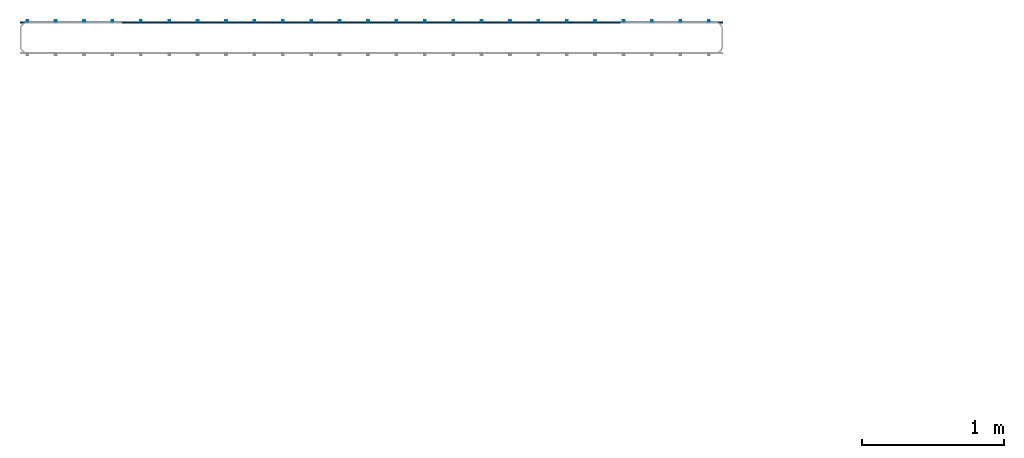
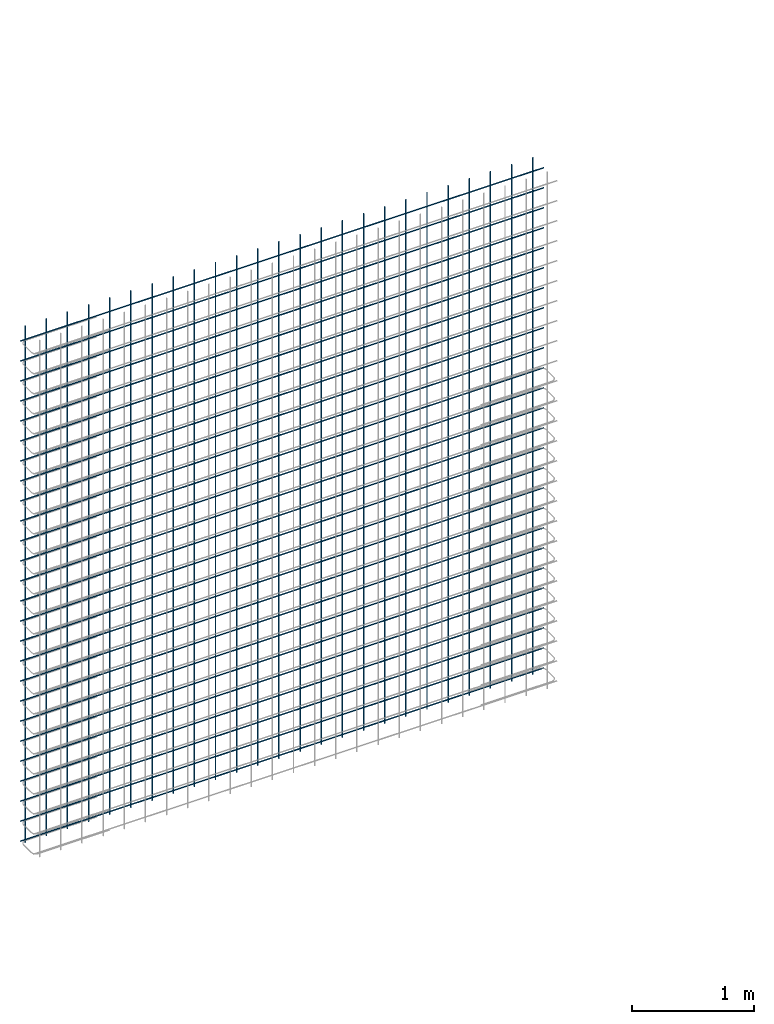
# One storey, part 3 of 4: 2 reinforcing bars.
"""IFC4X3_ADD2 building model written with IfcOpenShell, lengths in millimetres."""

from ifc_helpers import new_model, entity, si_unit, converted_unit, derived_unit, direction, frame, origin, place, context, subcontext, project, spatial, material, type_object, element, save


model = new_model("IFC4X3_ADD2")

# Units and contexts
model_context = context("Model", 3, precision=0.01, world=origin(), true_north=direction((6.123233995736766e-17, 1.0)))
plan_context = context("Plan", 3, precision=0.01, world=origin(), true_north=direction((6.123233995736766e-17, 1.0)))
body_context = subcontext(model_context, "Body", "Model", "MODEL_VIEW")
ifc_project = project(units=[si_unit("LENGTHUNIT", "METRE", prefix="MILLI"), converted_unit("PLANEANGLEUNIT", "DEGREE", entity("IfcPlaneAngleMeasure", 0.017453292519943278), si_unit("PLANEANGLEUNIT", "RADIAN"), dimensions=[0, 0, 0, 0, 0, 0, 0]), si_unit("AREAUNIT", "SQUARE_METRE"), si_unit("VOLUMEUNIT", "CUBIC_METRE"), derived_unit("THERMALTRANSMITTANCEUNIT", [(si_unit("MASSUNIT", "GRAM", prefix="KILO"), 1), (si_unit("THERMODYNAMICTEMPERATUREUNIT", "KELVIN"), -1), (si_unit("TIMEUNIT", "SECOND"), -3)]), derived_unit("USERDEFINED", [(si_unit("MASSUNIT", "GRAM", prefix="KILO"), 1), (si_unit("THERMODYNAMICTEMPERATUREUNIT", "KELVIN"), -1), (si_unit("TIMEUNIT", "SECOND"), -2)]), derived_unit("THERMALRESISTANCEUNIT", [(si_unit("MASSUNIT", "GRAM", prefix="KILO"), -1), (si_unit("TIMEUNIT", "SECOND"), 3), (si_unit("THERMODYNAMICTEMPERATUREUNIT", "KELVIN"), 1)]), si_unit("MASSUNIT", "GRAM", prefix="KILO"), derived_unit("MOMENTOFINERTIAUNIT", [(si_unit("LENGTHUNIT", "METRE"), 4)]), derived_unit("LINEARFORCEUNIT", [(si_unit("MASSUNIT", "GRAM", prefix="KILO"), 1), (si_unit("TIMEUNIT", "SECOND"), -2)]), derived_unit("WARPINGCONSTANTUNIT", [(si_unit("LENGTHUNIT", "METRE"), 6)]), si_unit("PRESSUREUNIT", "PASCAL"), derived_unit("MASSDENSITYUNIT", [(si_unit("MASSUNIT", "GRAM", prefix="KILO"), 1), (si_unit("LENGTHUNIT", "METRE"), -3)]), derived_unit("MODULUSOFELASTICITYUNIT", [(si_unit("MASSUNIT", "GRAM", prefix="KILO"), 1), (si_unit("TIMEUNIT", "SECOND"), -2), (si_unit("LENGTHUNIT", "METRE"), -1)]), derived_unit("THERMALEXPANSIONCOEFFICIENTUNIT", [(si_unit("THERMODYNAMICTEMPERATUREUNIT", "KELVIN"), -1)]), derived_unit("VAPORPERMEABILITYUNIT", [(si_unit("LENGTHUNIT", "METRE"), -1), (si_unit("TIMEUNIT", "SECOND"), 1)]), derived_unit("USERDEFINED", [(si_unit("MASSUNIT", "GRAM", prefix="KILO"), 1), (si_unit("TIMEUNIT", "SECOND"), -3), (si_unit("LENGTHUNIT", "METRE"), 3), (si_unit("ELECTRICCURRENTUNIT", "AMPERE"), -2)]), derived_unit("SPECIFICHEATCAPACITYUNIT", [(si_unit("THERMODYNAMICTEMPERATUREUNIT", "KELVIN"), -1), (si_unit("TIMEUNIT", "SECOND"), -2), (si_unit("LENGTHUNIT", "METRE"), 2)]), derived_unit("THERMALCONDUCTANCEUNIT", [(si_unit("MASSUNIT", "GRAM", prefix="KILO"), 1), (si_unit("THERMODYNAMICTEMPERATUREUNIT", "KELVIN"), -1), (si_unit("TIMEUNIT", "SECOND"), -3), (si_unit("LENGTHUNIT", "METRE"), 1)])], contexts=[model_context, plan_context])

# Site, building, storey
site_placement = place(None, origin())
site = spatial("IfcSite", under=ifc_project, at=site_placement, Name="Default", CompositionType="ELEMENT")
building_placement = place(site_placement, origin())
building = spatial("IfcBuilding", under=site, at=building_placement, Name="Complex structure", CompositionType="ELEMENT")
storey_placement = place(building_placement, frame((0.0, 0.0, -200.0)))
storey = spatial("IfcBuildingStorey", under=building, at=storey_placement, Name="Level -01", CompositionType="ELEMENT", Elevation=-200.0)

# Reinforcing bars
ifc_material = material(Name="Steel Rebar - B500A, B or C", Category="Unassigned")
reinforcing_bar_type = type_object("IfcReinforcingBarType", Name="Rebar Bar:12mm", PredefinedType="NOTDEFINED")
reinforcing_bar_1_placement = place(storey_placement, origin())
element("IfcReinforcingBar", 1, at=reinforcing_bar_1_placement, inside=storey, type_object=reinforcing_bar_type, material=ifc_material, Name="Rebar Bar:12mm : Shape 00", ObjectType="Rebar Bar:12mm", context=body_context, shape_type="AdvancedSweptSolid", body=[
    entity("IfcSweptDiskSolid", entity("IfcCompositeCurve", [entity("IfcCompositeCurveSegment", "CONTINUOUS", True, entity("IfcPolyline", [entity("IfcCartesianPoint", [-13568.221550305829, 4856.133296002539, 9.0]), entity("IfcCartesianPoint", [-13568.221550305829, 4856.133296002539, 5175.0])]))], False), 6.0, None, 0.0, 1.0),
    entity("IfcSweptDiskSolid", entity("IfcCompositeCurve", [entity("IfcCompositeCurveSegment", "CONTINUOUS", True, entity("IfcPolyline", [entity("IfcCartesianPoint", [-13368.221550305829, 4856.133296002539, 9.0]), entity("IfcCartesianPoint", [-13368.221550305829, 4856.133296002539, 5175.0])]))], False), 6.0, None, 0.0, 1.0),
    entity("IfcSweptDiskSolid", entity("IfcCompositeCurve", [entity("IfcCompositeCurveSegment", "CONTINUOUS", True, entity("IfcPolyline", [entity("IfcCartesianPoint", [-13168.221550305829, 4856.133296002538, 9.0]), entity("IfcCartesianPoint", [-13168.221550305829, 4856.133296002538, 5175.0])]))], False), 6.0, None, 0.0, 1.0),
    entity("IfcSweptDiskSolid", entity("IfcCompositeCurve", [entity("IfcCompositeCurveSegment", "CONTINUOUS", True, entity("IfcPolyline", [entity("IfcCartesianPoint", [-12968.221550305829, 4856.1332960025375, 9.0]), entity("IfcCartesianPoint", [-12968.221550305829, 4856.1332960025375, 5175.0])]))], False), 6.0, None, 0.0, 1.0),
    entity("IfcSweptDiskSolid", entity("IfcCompositeCurve", [entity("IfcCompositeCurveSegment", "CONTINUOUS", True, entity("IfcPolyline", [entity("IfcCartesianPoint", [-12768.221550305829, 4856.133296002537, 9.0]), entity("IfcCartesianPoint", [-12768.221550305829, 4856.133296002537, 5175.0])]))], False), 6.0, None, 0.0, 1.0),
    entity("IfcSweptDiskSolid", entity("IfcCompositeCurve", [entity("IfcCompositeCurveSegment", "CONTINUOUS", True, entity("IfcPolyline", [entity("IfcCartesianPoint", [-12568.221550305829, 4856.133296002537, 9.0]), entity("IfcCartesianPoint", [-12568.221550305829, 4856.133296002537, 5175.0])]))], False), 6.0, None, 0.0, 1.0),
    entity("IfcSweptDiskSolid", entity("IfcCompositeCurve", [entity("IfcCompositeCurveSegment", "CONTINUOUS", True, entity("IfcPolyline", [entity("IfcCartesianPoint", [-12368.221550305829, 4856.133296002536, 9.0]), entity("IfcCartesianPoint", [-12368.221550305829, 4856.133296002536, 5175.0])]))], False), 6.0, None, 0.0, 1.0),
    entity("IfcSweptDiskSolid", entity("IfcCompositeCurve", [entity("IfcCompositeCurveSegment", "CONTINUOUS", True, entity("IfcPolyline", [entity("IfcCartesianPoint", [-12168.221550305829, 4856.133296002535, 9.0]), entity("IfcCartesianPoint", [-12168.221550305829, 4856.133296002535, 5175.0])]))], False), 6.0, None, 0.0, 1.0),
    entity("IfcSweptDiskSolid", entity("IfcCompositeCurve", [entity("IfcCompositeCurveSegment", "CONTINUOUS", True, entity("IfcPolyline", [entity("IfcCartesianPoint", [-11968.221550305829, 4856.133296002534, 9.0]), entity("IfcCartesianPoint", [-11968.221550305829, 4856.133296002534, 5175.0])]))], False), 6.0, None, 0.0, 1.0),
    entity("IfcSweptDiskSolid", entity("IfcCompositeCurve", [entity("IfcCompositeCurveSegment", "CONTINUOUS", True, entity("IfcPolyline", [entity("IfcCartesianPoint", [-11768.221550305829, 4856.133296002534, 9.0]), entity("IfcCartesianPoint", [-11768.221550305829, 4856.133296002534, 5175.0])]))], False), 6.0, None, 0.0, 1.0),
    entity("IfcSweptDiskSolid", entity("IfcCompositeCurve", [entity("IfcCompositeCurveSegment", "CONTINUOUS", True, entity("IfcPolyline", [entity("IfcCartesianPoint", [-11568.221550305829, 4856.133296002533, 9.0]), entity("IfcCartesianPoint", [-11568.221550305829, 4856.133296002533, 5175.0])]))], False), 6.0, None, 0.0, 1.0),
    entity("IfcSweptDiskSolid", entity("IfcCompositeCurve", [entity("IfcCompositeCurveSegment", "CONTINUOUS", True, entity("IfcPolyline", [entity("IfcCartesianPoint", [-11368.221550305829, 4856.133296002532, 9.0]), entity("IfcCartesianPoint", [-11368.221550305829, 4856.133296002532, 5175.0])]))], False), 6.0, None, 0.0, 1.0),
    entity("IfcSweptDiskSolid", entity("IfcCompositeCurve", [entity("IfcCompositeCurveSegment", "CONTINUOUS", True, entity("IfcPolyline", [entity("IfcCartesianPoint", [-11168.221550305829, 4856.133296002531, 9.0]), entity("IfcCartesianPoint", [-11168.221550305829, 4856.133296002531, 5175.0])]))], False), 6.0, None, 0.0, 1.0),
    entity("IfcSweptDiskSolid", entity("IfcCompositeCurve", [entity("IfcCompositeCurveSegment", "CONTINUOUS", True, entity("IfcPolyline", [entity("IfcCartesianPoint", [-10968.221550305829, 4856.133296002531, 9.0]), entity("IfcCartesianPoint", [-10968.221550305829, 4856.133296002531, 5175.0])]))], False), 6.0, None, 0.0, 1.0),
    entity("IfcSweptDiskSolid", entity("IfcCompositeCurve", [entity("IfcCompositeCurveSegment", "CONTINUOUS", True, entity("IfcPolyline", [entity("IfcCartesianPoint", [-10768.221550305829, 4856.13329600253, 9.0]), entity("IfcCartesianPoint", [-10768.221550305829, 4856.13329600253, 5175.0])]))], False), 6.0, None, 0.0, 1.0),
    entity("IfcSweptDiskSolid", entity("IfcCompositeCurve", [entity("IfcCompositeCurveSegment", "CONTINUOUS", True, entity("IfcPolyline", [entity("IfcCartesianPoint", [-10568.221550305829, 4856.133296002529, 9.0]), entity("IfcCartesianPoint", [-10568.221550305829, 4856.133296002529, 5175.0])]))], False), 6.0, None, 0.0, 1.0),
    entity("IfcSweptDiskSolid", entity("IfcCompositeCurve", [entity("IfcCompositeCurveSegment", "CONTINUOUS", True, entity("IfcPolyline", [entity("IfcCartesianPoint", [-10368.221550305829, 4856.133296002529, 9.0]), entity("IfcCartesianPoint", [-10368.221550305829, 4856.133296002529, 5175.0])]))], False), 6.0, None, 0.0, 1.0),
    entity("IfcSweptDiskSolid", entity("IfcCompositeCurve", [entity("IfcCompositeCurveSegment", "CONTINUOUS", True, entity("IfcPolyline", [entity("IfcCartesianPoint", [-10168.221550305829, 4856.133296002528, 9.0]), entity("IfcCartesianPoint", [-10168.221550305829, 4856.133296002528, 5175.0])]))], False), 6.0, None, 0.0, 1.0),
    entity("IfcSweptDiskSolid", entity("IfcCompositeCurve", [entity("IfcCompositeCurveSegment", "CONTINUOUS", True, entity("IfcPolyline", [entity("IfcCartesianPoint", [-9968.221550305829, 4856.1332960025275, 9.0]), entity("IfcCartesianPoint", [-9968.221550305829, 4856.1332960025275, 5175.0])]))], False), 6.0, None, 0.0, 1.0),
    entity("IfcSweptDiskSolid", entity("IfcCompositeCurve", [entity("IfcCompositeCurveSegment", "CONTINUOUS", True, entity("IfcPolyline", [entity("IfcCartesianPoint", [-9768.221550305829, 4856.133296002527, 9.0]), entity("IfcCartesianPoint", [-9768.221550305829, 4856.133296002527, 5175.0])]))], False), 6.0, None, 0.0, 1.0),
    entity("IfcSweptDiskSolid", entity("IfcCompositeCurve", [entity("IfcCompositeCurveSegment", "CONTINUOUS", True, entity("IfcPolyline", [entity("IfcCartesianPoint", [-9568.221550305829, 4856.133296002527, 9.0]), entity("IfcCartesianPoint", [-9568.221550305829, 4856.133296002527, 5175.0])]))], False), 6.0, None, 0.0, 1.0),
    entity("IfcSweptDiskSolid", entity("IfcCompositeCurve", [entity("IfcCompositeCurveSegment", "CONTINUOUS", True, entity("IfcPolyline", [entity("IfcCartesianPoint", [-9368.221550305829, 4856.133296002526, 9.0]), entity("IfcCartesianPoint", [-9368.221550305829, 4856.133296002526, 5175.0])]))], False), 6.0, None, 0.0, 1.0),
    entity("IfcSweptDiskSolid", entity("IfcCompositeCurve", [entity("IfcCompositeCurveSegment", "CONTINUOUS", True, entity("IfcPolyline", [entity("IfcCartesianPoint", [-9168.221550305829, 4856.133296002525, 9.0]), entity("IfcCartesianPoint", [-9168.221550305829, 4856.133296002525, 5175.0])]))], False), 6.0, None, 0.0, 1.0),
    entity("IfcSweptDiskSolid", entity("IfcCompositeCurve", [entity("IfcCompositeCurveSegment", "CONTINUOUS", True, entity("IfcPolyline", [entity("IfcCartesianPoint", [-8968.221550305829, 4856.133296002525, 9.0]), entity("IfcCartesianPoint", [-8968.221550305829, 4856.133296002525, 5175.0])]))], False), 6.0, None, 0.0, 1.0),
    entity("IfcSweptDiskSolid", entity("IfcCompositeCurve", [entity("IfcCompositeCurveSegment", "CONTINUOUS", True, entity("IfcPolyline", [entity("IfcCartesianPoint", [-8768.221550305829, 4856.133296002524, 9.0]), entity("IfcCartesianPoint", [-8768.221550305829, 4856.133296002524, 5175.0])]))], False), 6.0, None, 0.0, 1.0),
])
reinforcing_bar_2_placement = place(storey_placement, origin())
element("IfcReinforcingBar", 2, at=reinforcing_bar_2_placement, inside=storey, type_object=reinforcing_bar_type, material=ifc_material, Name="Rebar Bar:12mm : Shape 00", ObjectType="Rebar Bar:12mm", context=body_context, shape_type="AdvancedSweptSolid", body=[
    entity("IfcSweptDiskSolid", entity("IfcCompositeCurve", [entity("IfcCompositeCurveSegment", "CONTINUOUS", True, entity("IfcPolyline", [entity("IfcCartesianPoint", [-8670.221550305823, 4844.133296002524, 47.0]), entity("IfcCartesianPoint", [-13620.221550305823, 4844.13329600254, 47.0])]))], False), 6.0, None, 0.0, 1.0),
    entity("IfcSweptDiskSolid", entity("IfcCompositeCurve", [entity("IfcCompositeCurveSegment", "CONTINUOUS", True, entity("IfcPolyline", [entity("IfcCartesianPoint", [-8670.221550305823, 4844.133296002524, 247.0]), entity("IfcCartesianPoint", [-13620.221550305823, 4844.13329600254, 247.0])]))], False), 6.0, None, 0.0, 1.0),
    entity("IfcSweptDiskSolid", entity("IfcCompositeCurve", [entity("IfcCompositeCurveSegment", "CONTINUOUS", True, entity("IfcPolyline", [entity("IfcCartesianPoint", [-8670.221550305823, 4844.133296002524, 447.0]), entity("IfcCartesianPoint", [-13620.221550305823, 4844.13329600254, 447.0])]))], False), 6.0, None, 0.0, 1.0),
    entity("IfcSweptDiskSolid", entity("IfcCompositeCurve", [entity("IfcCompositeCurveSegment", "CONTINUOUS", True, entity("IfcPolyline", [entity("IfcCartesianPoint", [-8670.221550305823, 4844.133296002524, 647.0]), entity("IfcCartesianPoint", [-13620.221550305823, 4844.13329600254, 647.0])]))], False), 6.0, None, 0.0, 1.0),
    entity("IfcSweptDiskSolid", entity("IfcCompositeCurve", [entity("IfcCompositeCurveSegment", "CONTINUOUS", True, entity("IfcPolyline", [entity("IfcCartesianPoint", [-8670.221550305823, 4844.133296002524, 847.0]), entity("IfcCartesianPoint", [-13620.221550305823, 4844.13329600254, 847.0])]))], False), 6.0, None, 0.0, 1.0),
    entity("IfcSweptDiskSolid", entity("IfcCompositeCurve", [entity("IfcCompositeCurveSegment", "CONTINUOUS", True, entity("IfcPolyline", [entity("IfcCartesianPoint", [-8670.221550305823, 4844.133296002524, 1047.0]), entity("IfcCartesianPoint", [-13620.221550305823, 4844.13329600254, 1047.0])]))], False), 6.0, None, 0.0, 1.0),
    entity("IfcSweptDiskSolid", entity("IfcCompositeCurve", [entity("IfcCompositeCurveSegment", "CONTINUOUS", True, entity("IfcPolyline", [entity("IfcCartesianPoint", [-8670.221550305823, 4844.133296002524, 1247.0]), entity("IfcCartesianPoint", [-13620.221550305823, 4844.13329600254, 1247.0])]))], False), 6.0, None, 0.0, 1.0),
    entity("IfcSweptDiskSolid", entity("IfcCompositeCurve", [entity("IfcCompositeCurveSegment", "CONTINUOUS", True, entity("IfcPolyline", [entity("IfcCartesianPoint", [-8670.221550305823, 4844.133296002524, 1447.0]), entity("IfcCartesianPoint", [-13620.221550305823, 4844.13329600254, 1447.0])]))], False), 6.0, None, 0.0, 1.0),
    entity("IfcSweptDiskSolid", entity("IfcCompositeCurve", [entity("IfcCompositeCurveSegment", "CONTINUOUS", True, entity("IfcPolyline", [entity("IfcCartesianPoint", [-8670.221550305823, 4844.133296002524, 1647.0]), entity("IfcCartesianPoint", [-13620.221550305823, 4844.13329600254, 1647.0])]))], False), 6.0, None, 0.0, 1.0),
    entity("IfcSweptDiskSolid", entity("IfcCompositeCurve", [entity("IfcCompositeCurveSegment", "CONTINUOUS", True, entity("IfcPolyline", [entity("IfcCartesianPoint", [-8670.221550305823, 4844.133296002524, 1847.0]), entity("IfcCartesianPoint", [-13620.221550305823, 4844.13329600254, 1847.0])]))], False), 6.0, None, 0.0, 1.0),
    entity("IfcSweptDiskSolid", entity("IfcCompositeCurve", [entity("IfcCompositeCurveSegment", "CONTINUOUS", True, entity("IfcPolyline", [entity("IfcCartesianPoint", [-8670.221550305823, 4844.133296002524, 2047.0]), entity("IfcCartesianPoint", [-13620.221550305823, 4844.13329600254, 2047.0])]))], False), 6.0, None, 0.0, 1.0),
    entity("IfcSweptDiskSolid", entity("IfcCompositeCurve", [entity("IfcCompositeCurveSegment", "CONTINUOUS", True, entity("IfcPolyline", [entity("IfcCartesianPoint", [-8670.221550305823, 4844.133296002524, 2247.0]), entity("IfcCartesianPoint", [-13620.221550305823, 4844.13329600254, 2247.0])]))], False), 6.0, None, 0.0, 1.0),
    entity("IfcSweptDiskSolid", entity("IfcCompositeCurve", [entity("IfcCompositeCurveSegment", "CONTINUOUS", True, entity("IfcPolyline", [entity("IfcCartesianPoint", [-8670.221550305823, 4844.133296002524, 2447.0]), entity("IfcCartesianPoint", [-13620.221550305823, 4844.13329600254, 2447.0])]))], False), 6.0, None, 0.0, 1.0),
    entity("IfcSweptDiskSolid", entity("IfcCompositeCurve", [entity("IfcCompositeCurveSegment", "CONTINUOUS", True, entity("IfcPolyline", [entity("IfcCartesianPoint", [-8670.221550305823, 4844.133296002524, 2647.0]), entity("IfcCartesianPoint", [-13620.221550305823, 4844.13329600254, 2647.0])]))], False), 6.0, None, 0.0, 1.0),
    entity("IfcSweptDiskSolid", entity("IfcCompositeCurve", [entity("IfcCompositeCurveSegment", "CONTINUOUS", True, entity("IfcPolyline", [entity("IfcCartesianPoint", [-8670.221550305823, 4844.133296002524, 2847.0]), entity("IfcCartesianPoint", [-13620.221550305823, 4844.13329600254, 2847.0])]))], False), 6.0, None, 0.0, 1.0),
    entity("IfcSweptDiskSolid", entity("IfcCompositeCurve", [entity("IfcCompositeCurveSegment", "CONTINUOUS", True, entity("IfcPolyline", [entity("IfcCartesianPoint", [-8670.221550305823, 4844.133296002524, 3047.0]), entity("IfcCartesianPoint", [-13620.221550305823, 4844.13329600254, 3047.0])]))], False), 6.0, None, 0.0, 1.0),
    entity("IfcSweptDiskSolid", entity("IfcCompositeCurve", [entity("IfcCompositeCurveSegment", "CONTINUOUS", True, entity("IfcPolyline", [entity("IfcCartesianPoint", [-8670.221550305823, 4844.133296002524, 3247.0]), entity("IfcCartesianPoint", [-13620.221550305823, 4844.13329600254, 3247.0])]))], False), 6.0, None, 0.0, 1.0),
    entity("IfcSweptDiskSolid", entity("IfcCompositeCurve", [entity("IfcCompositeCurveSegment", "CONTINUOUS", True, entity("IfcPolyline", [entity("IfcCartesianPoint", [-8670.221550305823, 4844.133296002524, 3447.0]), entity("IfcCartesianPoint", [-13620.221550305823, 4844.13329600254, 3447.0])]))], False), 6.0, None, 0.0, 1.0),
    entity("IfcSweptDiskSolid", entity("IfcCompositeCurve", [entity("IfcCompositeCurveSegment", "CONTINUOUS", True, entity("IfcPolyline", [entity("IfcCartesianPoint", [-8670.221550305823, 4844.133296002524, 3647.0]), entity("IfcCartesianPoint", [-13620.221550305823, 4844.13329600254, 3647.0])]))], False), 6.0, None, 0.0, 1.0),
    entity("IfcSweptDiskSolid", entity("IfcCompositeCurve", [entity("IfcCompositeCurveSegment", "CONTINUOUS", True, entity("IfcPolyline", [entity("IfcCartesianPoint", [-8670.221550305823, 4844.133296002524, 3847.0]), entity("IfcCartesianPoint", [-13620.221550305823, 4844.13329600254, 3847.0])]))], False), 6.0, None, 0.0, 1.0),
    entity("IfcSweptDiskSolid", entity("IfcCompositeCurve", [entity("IfcCompositeCurveSegment", "CONTINUOUS", True, entity("IfcPolyline", [entity("IfcCartesianPoint", [-8670.221550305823, 4844.133296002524, 4047.0]), entity("IfcCartesianPoint", [-13620.221550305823, 4844.13329600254, 4047.0])]))], False), 6.0, None, 0.0, 1.0),
    entity("IfcSweptDiskSolid", entity("IfcCompositeCurve", [entity("IfcCompositeCurveSegment", "CONTINUOUS", True, entity("IfcPolyline", [entity("IfcCartesianPoint", [-8670.221550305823, 4844.133296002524, 4247.0]), entity("IfcCartesianPoint", [-13620.221550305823, 4844.13329600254, 4247.0])]))], False), 6.0, None, 0.0, 1.0),
    entity("IfcSweptDiskSolid", entity("IfcCompositeCurve", [entity("IfcCompositeCurveSegment", "CONTINUOUS", True, entity("IfcPolyline", [entity("IfcCartesianPoint", [-8670.221550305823, 4844.133296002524, 4447.0]), entity("IfcCartesianPoint", [-13620.221550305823, 4844.13329600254, 4447.0])]))], False), 6.0, None, 0.0, 1.0),
    entity("IfcSweptDiskSolid", entity("IfcCompositeCurve", [entity("IfcCompositeCurveSegment", "CONTINUOUS", True, entity("IfcPolyline", [entity("IfcCartesianPoint", [-8670.221550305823, 4844.133296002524, 4647.0]), entity("IfcCartesianPoint", [-13620.221550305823, 4844.13329600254, 4647.0])]))], False), 6.0, None, 0.0, 1.0),
    entity("IfcSweptDiskSolid", entity("IfcCompositeCurve", [entity("IfcCompositeCurveSegment", "CONTINUOUS", True, entity("IfcPolyline", [entity("IfcCartesianPoint", [-8670.221550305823, 4844.133296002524, 4847.0]), entity("IfcCartesianPoint", [-13620.221550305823, 4844.13329600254, 4847.0])]))], False), 6.0, None, 0.0, 1.0),
    entity("IfcSweptDiskSolid", entity("IfcCompositeCurve", [entity("IfcCompositeCurveSegment", "CONTINUOUS", True, entity("IfcPolyline", [entity("IfcCartesianPoint", [-8670.221550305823, 4844.133296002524, 5047.0]), entity("IfcCartesianPoint", [-13620.221550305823, 4844.13329600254, 5047.0])]))], False), 6.0, None, 0.0, 1.0),
])

save(model, "model.ifc")
